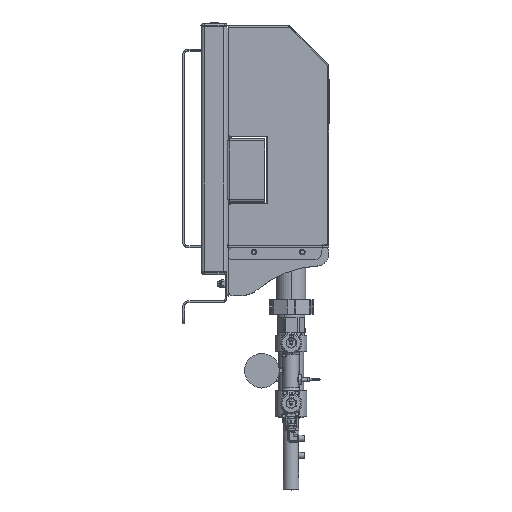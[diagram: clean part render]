
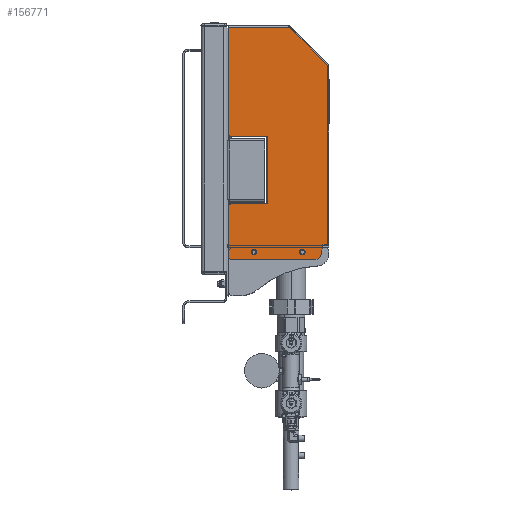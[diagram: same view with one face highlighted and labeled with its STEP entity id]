
A CAD part, top view. The second image highlights one B-rep face of the part: STEP entity #156771.
In plain terms, the highlighted planar face has unit normal (0, 0, 1).
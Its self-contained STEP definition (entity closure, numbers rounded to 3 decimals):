
#155194=DIRECTION('',(0.,1.,0.));
#155195=VECTOR('',#155194,14.241);
#155196=CARTESIAN_POINT('',(7.895,0.205,3.905));
#155197=LINE('',#155196,#155195);
#155210=CARTESIAN_POINT('',(0.275,9.025,3.905));
#155211=DIRECTION('',(0.,0.,1.));
#155212=DIRECTION('',(-1.,0.,0.));
#155213=AXIS2_PLACEMENT_3D('',#155210,#155211,#155212);
#155215=DIRECTION('',(0.,1.,0.));
#155216=VECTOR('',#155215,0.06);
#155217=CARTESIAN_POINT('',(4.811,17.47,3.905));
#155218=LINE('',#155217,#155216);
#155219=DIRECTION('',(-0.707,0.707,0.));
#155220=VECTOR('',#155219,4.362);
#155221=CARTESIAN_POINT('',(7.895,14.446,3.905));
#155222=LINE('',#155221,#155220);
#155223=DIRECTION('',(-1.,0.,0.));
#155224=VECTOR('',#155223,0.374);
#155225=CARTESIAN_POINT('',(7.895,0.205,3.905));
#155226=LINE('',#155225,#155224);
#155227=DIRECTION('',(-0.174,-0.985,0.));
#155228=VECTOR('',#155227,0.799);
#155229=CARTESIAN_POINT('',(7.521,0.205,3.905));
#155230=LINE('',#155229,#155228);
#155231=CARTESIAN_POINT('',(6.89,-0.495,3.905));
#155232=DIRECTION('',(0.,0.,-1.));
#155233=DIRECTION('',(0.985,-0.174,0.));
#155234=AXIS2_PLACEMENT_3D('',#155231,#155232,#155233);
#155236=DIRECTION('',(1.,0.,0.));
#155237=VECTOR('',#155236,6.615);
#155238=CARTESIAN_POINT('',(0.275,-0.995,3.905));
#155239=LINE('',#155238,#155237);
#155240=CARTESIAN_POINT('',(0.275,-0.745,3.905));
#155241=DIRECTION('',(0.,0.,1.));
#155242=DIRECTION('',(-1.,0.,0.));
#155243=AXIS2_PLACEMENT_3D('',#155240,#155241,#155242);
#155245=DIRECTION('',(0.,-1.,0.));
#155246=VECTOR('',#155245,3.95);
#155247=CARTESIAN_POINT('',(0.025,3.205,3.905));
#155248=LINE('',#155247,#155246);
#155249=CARTESIAN_POINT('',(0.275,3.205,3.905));
#155250=DIRECTION('',(0.,0.,1.));
#155251=DIRECTION('',(0.,1.,0.));
#155252=AXIS2_PLACEMENT_3D('',#155249,#155250,#155251);
#155254=DIRECTION('',(1.,0.,0.));
#155255=VECTOR('',#155254,2.87);
#155256=CARTESIAN_POINT('',(0.275,3.455,3.905));
#155257=LINE('',#155256,#155255);
#155258=DIRECTION('',(0.,1.,0.));
#155259=VECTOR('',#155258,0.06);
#155260=CARTESIAN_POINT('',(3.145,3.455,3.905));
#155261=LINE('',#155260,#155259);
#155262=DIRECTION('',(0.,1.,0.));
#155263=VECTOR('',#155262,0.06);
#155264=CARTESIAN_POINT('',(3.145,8.715,3.905));
#155265=LINE('',#155264,#155263);
#155266=DIRECTION('',(-1.,0.,0.));
#155267=VECTOR('',#155266,2.87);
#155268=CARTESIAN_POINT('',(3.145,8.775,3.905));
#155269=LINE('',#155268,#155267);
#155376=DIRECTION('',(0.,-1.,0.));
#155377=VECTOR('',#155376,5.2);
#155378=CARTESIAN_POINT('',(3.145,8.715,3.905));
#155379=LINE('',#155378,#155377);
#155575=DIRECTION('',(1.,0.,0.));
#155576=VECTOR('',#155575,4.786);
#155577=CARTESIAN_POINT('',(0.025,17.47,3.905));
#155578=LINE('',#155577,#155576);
#155600=DIRECTION('',(0.,-1.,0.));
#155601=VECTOR('',#155600,8.445);
#155602=CARTESIAN_POINT('',(0.025,17.47,3.905));
#155603=LINE('',#155602,#155601);
#155982=CARTESIAN_POINT('',(7.382,-0.582,3.905));
#155983=CARTESIAN_POINT('',(6.89,-0.995,3.905));
#155984=VERTEX_POINT('',#155982);
#155985=VERTEX_POINT('',#155983);
#155986=CARTESIAN_POINT('',(7.895,0.205,3.905));
#155987=CARTESIAN_POINT('',(7.521,0.205,3.905));
#155988=VERTEX_POINT('',#155986);
#155989=VERTEX_POINT('',#155987);
#156076=CARTESIAN_POINT('',(7.895,14.446,3.905));
#156077=CARTESIAN_POINT('',(4.811,17.53,3.905));
#156078=VERTEX_POINT('',#156076);
#156079=VERTEX_POINT('',#156077);
#156164=CARTESIAN_POINT('',(4.811,17.47,3.905));
#156165=VERTEX_POINT('',#156164);
#156172=CARTESIAN_POINT('',(0.025,17.47,3.905));
#156173=VERTEX_POINT('',#156172);
#156204=CARTESIAN_POINT('',(3.145,8.715,3.905));
#156205=CARTESIAN_POINT('',(3.145,8.775,3.905));
#156206=VERTEX_POINT('',#156204);
#156207=VERTEX_POINT('',#156205);
#156212=CARTESIAN_POINT('',(3.145,3.515,3.905));
#156213=CARTESIAN_POINT('',(3.145,3.455,3.905));
#156214=VERTEX_POINT('',#156212);
#156215=VERTEX_POINT('',#156213);
#156236=CARTESIAN_POINT('',(0.025,9.025,3.905));
#156237=CARTESIAN_POINT('',(0.275,8.775,3.905));
#156238=VERTEX_POINT('',#156236);
#156239=VERTEX_POINT('',#156237);
#156244=CARTESIAN_POINT('',(0.025,-0.745,3.905));
#156245=CARTESIAN_POINT('',(0.275,-0.995,3.905));
#156246=VERTEX_POINT('',#156244);
#156247=VERTEX_POINT('',#156245);
#156268=CARTESIAN_POINT('',(0.275,3.455,3.905));
#156269=VERTEX_POINT('',#156268);
#156276=CARTESIAN_POINT('',(0.025,3.205,3.905));
#156277=VERTEX_POINT('',#156276);
#156729=CARTESIAN_POINT('',(8.,10.761,3.905));
#156730=DIRECTION('',(0.,0.,1.));
#156731=DIRECTION('',(0.,1.,0.));
#156732=AXIS2_PLACEMENT_3D('',#156729,#156730,#156731);
#156733=PLANE('',#156732);
#156735=ORIENTED_EDGE('',*,*,#156734,.F.);
#156737=ORIENTED_EDGE('',*,*,#156736,.F.);
#156739=ORIENTED_EDGE('',*,*,#156738,.T.);
#156741=ORIENTED_EDGE('',*,*,#156740,.T.);
#156743=ORIENTED_EDGE('',*,*,#156742,.F.);
#156744=ORIENTED_EDGE('',*,*,#156721,.F.);
#156746=ORIENTED_EDGE('',*,*,#156745,.T.);
#156748=ORIENTED_EDGE('',*,*,#156747,.T.);
#156750=ORIENTED_EDGE('',*,*,#156749,.T.);
#156752=ORIENTED_EDGE('',*,*,#156751,.F.);
#156754=ORIENTED_EDGE('',*,*,#156753,.F.);
#156756=ORIENTED_EDGE('',*,*,#156755,.F.);
#156758=ORIENTED_EDGE('',*,*,#156757,.F.);
#156760=ORIENTED_EDGE('',*,*,#156759,.T.);
#156762=ORIENTED_EDGE('',*,*,#156761,.T.);
#156764=ORIENTED_EDGE('',*,*,#156763,.F.);
#156766=ORIENTED_EDGE('',*,*,#156765,.T.);
#156768=ORIENTED_EDGE('',*,*,#156767,.T.);
#156769=EDGE_LOOP('',(#156735,#156737,#156739,#156741,#156743,#156744,#156746,
#156748,#156750,#156752,#156754,#156756,#156758,#156760,#156762,#156764,#156766,
#156768));
#156770=FACE_OUTER_BOUND('',#156769,.F.);
#156771=ADVANCED_FACE('',(#156770),#156733,.T.);
#155214=CIRCLE('',#155213,0.25);
#155235=CIRCLE('',#155234,0.5);
#155244=CIRCLE('',#155243,0.25);
#155253=CIRCLE('',#155252,0.25);
#156721=EDGE_CURVE('',#155988,#156078,#155197,.T.);
#156734=EDGE_CURVE('',#156238,#156239,#155214,.T.);
#156736=EDGE_CURVE('',#156173,#156238,#155603,.T.);
#156738=EDGE_CURVE('',#156173,#156165,#155578,.T.);
#156740=EDGE_CURVE('',#156165,#156079,#155218,.T.);
#156742=EDGE_CURVE('',#156078,#156079,#155222,.T.);
#156745=EDGE_CURVE('',#155988,#155989,#155226,.T.);
#156747=EDGE_CURVE('',#155989,#155984,#155230,.T.);
#156749=EDGE_CURVE('',#155984,#155985,#155235,.T.);
#156751=EDGE_CURVE('',#156247,#155985,#155239,.T.);
#156753=EDGE_CURVE('',#156246,#156247,#155244,.T.);
#156755=EDGE_CURVE('',#156277,#156246,#155248,.T.);
#156757=EDGE_CURVE('',#156269,#156277,#155253,.T.);
#156759=EDGE_CURVE('',#156269,#156215,#155257,.T.);
#156761=EDGE_CURVE('',#156215,#156214,#155261,.T.);
#156763=EDGE_CURVE('',#156206,#156214,#155379,.T.);
#156765=EDGE_CURVE('',#156206,#156207,#155265,.T.);
#156767=EDGE_CURVE('',#156207,#156239,#155269,.T.);
